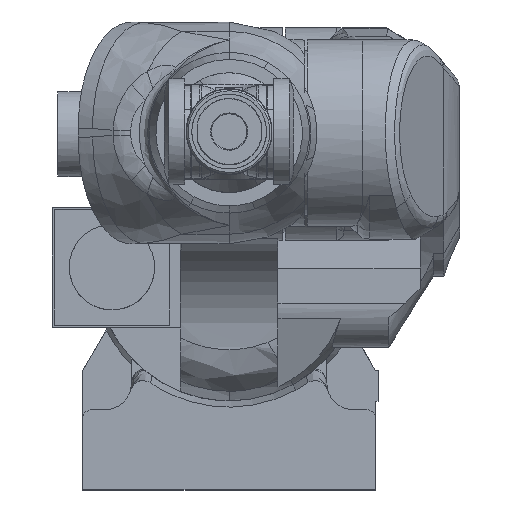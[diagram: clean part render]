
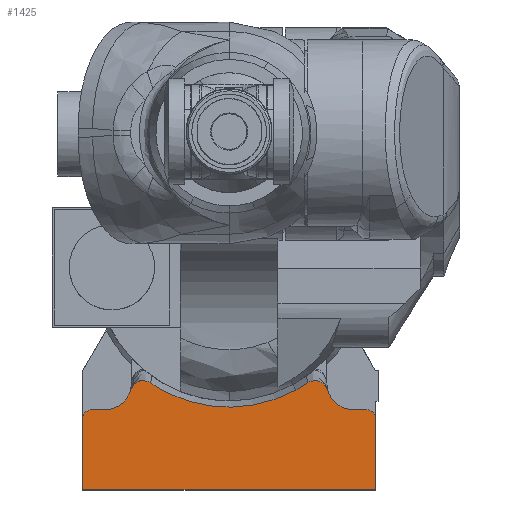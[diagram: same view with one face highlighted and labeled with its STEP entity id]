
A CAD part, top view. The second image highlights one B-rep face of the part: STEP entity #1425.
In plain terms, the highlighted planar face has unit normal (0, 0, 1).
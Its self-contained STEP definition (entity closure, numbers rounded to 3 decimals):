
#445=CARTESIAN_POINT('Vertex',(165.,-170.,187.)) ;
#448=CARTESIAN_POINT('Line Origine',(165.,-210.,187.)) ;
#452=CARTESIAN_POINT('Vertex',(165.,-250.,187.)) ;
#689=CARTESIAN_POINT('Vertex',(111.175,-138.313,187.)) ;
#692=CARTESIAN_POINT('Axis2P3D Location',(140.,-130.,187.)) ;
#696=CARTESIAN_POINT('Vertex',(140.,-160.,187.)) ;
#717=CARTESIAN_POINT('Line Origine',(147.5,-160.,187.)) ;
#721=CARTESIAN_POINT('Vertex',(155.,-160.,187.)) ;
#741=CARTESIAN_POINT('Axis2P3D Location',(155.,-170.,187.)) ;
#762=CARTESIAN_POINT('Vertex',(-165.,-250.,187.)) ;
#765=CARTESIAN_POINT('Line Origine',(-165.,-210.,187.)) ;
#769=CARTESIAN_POINT('Vertex',(-165.,-170.,187.)) ;
#805=CARTESIAN_POINT('Line Origine',(0.,-250.,187.)) ;
#1313=CARTESIAN_POINT('Axis2P3D Location',(0.,0.,187.)) ;
#1319=CARTESIAN_POINT('Control Point',(111.175,-138.313,187.)) ;
#1320=CARTESIAN_POINT('Control Point',(110.749,-136.835,187.)) ;
#1321=CARTESIAN_POINT('Control Point',(110.139,-135.41,187.)) ;
#1322=CARTESIAN_POINT('Control Point',(109.354,-134.066,187.)) ;
#1323=CARTESIAN_POINT('Control Point',(107.479,-131.617,187.)) ;
#1324=CARTESIAN_POINT('Control Point',(105.058,-129.702,187.)) ;
#1325=CARTESIAN_POINT('Control Point',(103.741,-128.907,187.)) ;
#1326=CARTESIAN_POINT('Control Point',(100.947,-127.673,187.)) ;
#1327=CARTESIAN_POINT('Control Point',(97.929,-127.173,187.)) ;
#1328=CARTESIAN_POINT('Control Point',(96.405,-127.116,187.)) ;
#1329=CARTESIAN_POINT('Control Point',(93.768,-127.359,187.)) ;
#1330=CARTESIAN_POINT('Control Point',(91.258,-128.173,187.)) ;
#1331=CARTESIAN_POINT('Control Point',(90.226,-128.621,187.)) ;
#1332=CARTESIAN_POINT('Control Point',(89.243,-129.163,187.)) ;
#1333=CARTESIAN_POINT('Control Point',(88.32,-129.79,187.)) ;
#1334=CARTESIAN_POINT('Vertex',(88.32,-129.79,187.)) ;
#1338=CARTESIAN_POINT('Control Point',(88.32,-129.79,187.)) ;
#1339=CARTESIAN_POINT('Control Point',(85.79,-131.512,187.)) ;
#1340=CARTESIAN_POINT('Control Point',(83.217,-133.172,187.)) ;
#1341=CARTESIAN_POINT('Control Point',(80.601,-134.772,187.)) ;
#1342=CARTESIAN_POINT('Control Point',(77.951,-136.305,187.)) ;
#1343=CARTESIAN_POINT('Control Point',(75.265,-137.772,187.)) ;
#1344=CARTESIAN_POINT('Vertex',(75.265,-137.772,187.)) ;
#1348=CARTESIAN_POINT('Control Point',(75.265,-137.772,187.)) ;
#1349=CARTESIAN_POINT('Control Point',(62.337,-144.834,187.)) ;
#1350=CARTESIAN_POINT('Control Point',(48.581,-150.381,187.)) ;
#1351=CARTESIAN_POINT('Control Point',(34.231,-154.281,187.)) ;
#1352=CARTESIAN_POINT('Control Point',(4.889,-158.643,187.)) ;
#1353=CARTESIAN_POINT('Control Point',(-24.666,-156.096,187.)) ;
#1354=CARTESIAN_POINT('Control Point',(-39.228,-153.087,187.)) ;
#1355=CARTESIAN_POINT('Control Point',(-58.073,-146.808,187.)) ;
#1356=CARTESIAN_POINT('Control Point',(-75.602,-137.724,187.)) ;
#1357=CARTESIAN_POINT('Control Point',(-79.947,-135.248,187.)) ;
#1358=CARTESIAN_POINT('Control Point',(-84.189,-132.601,187.)) ;
#1359=CARTESIAN_POINT('Control Point',(-88.32,-129.79,187.)) ;
#1360=CARTESIAN_POINT('Vertex',(-88.32,-129.79,187.)) ;
#1364=CARTESIAN_POINT('Control Point',(-88.32,-129.79,187.)) ;
#1365=CARTESIAN_POINT('Control Point',(-89.564,-128.945,187.)) ;
#1366=CARTESIAN_POINT('Control Point',(-90.916,-128.255,187.)) ;
#1367=CARTESIAN_POINT('Control Point',(-92.349,-127.742,187.)) ;
#1368=CARTESIAN_POINT('Control Point',(-95.323,-127.095,187.)) ;
#1369=CARTESIAN_POINT('Control Point',(-98.363,-127.216,187.)) ;
#1370=CARTESIAN_POINT('Control Point',(-99.871,-127.472,187.)) ;
#1371=CARTESIAN_POINT('Control Point',(-102.805,-128.363,187.)) ;
#1372=CARTESIAN_POINT('Control Point',(-105.422,-129.954,187.)) ;
#1373=CARTESIAN_POINT('Control Point',(-106.628,-130.916,187.)) ;
#1374=CARTESIAN_POINT('Control Point',(-108.507,-132.844,187.)) ;
#1375=CARTESIAN_POINT('Control Point',(-109.925,-135.118,187.)) ;
#1376=CARTESIAN_POINT('Control Point',(-110.44,-136.146,187.)) ;
#1377=CARTESIAN_POINT('Control Point',(-110.859,-137.215,187.)) ;
#1378=CARTESIAN_POINT('Control Point',(-111.175,-138.313,187.)) ;
#1379=CARTESIAN_POINT('Vertex',(-111.175,-138.313,187.)) ;
#1383=CARTESIAN_POINT('Control Point',(-111.175,-138.313,187.)) ;
#1384=CARTESIAN_POINT('Control Point',(-111.992,-141.149,187.)) ;
#1385=CARTESIAN_POINT('Control Point',(-113.159,-143.884,187.)) ;
#1386=CARTESIAN_POINT('Control Point',(-114.658,-146.462,187.)) ;
#1387=CARTESIAN_POINT('Control Point',(-118.259,-151.195,187.)) ;
#1388=CARTESIAN_POINT('Control Point',(-122.9,-154.915,187.)) ;
#1389=CARTESIAN_POINT('Control Point',(-125.439,-156.48,187.)) ;
#1390=CARTESIAN_POINT('Control Point',(-129.827,-158.484,187.)) ;
#1391=CARTESIAN_POINT('Control Point',(-134.503,-159.578,187.)) ;
#1392=CARTESIAN_POINT('Control Point',(-136.326,-159.859,187.)) ;
#1393=CARTESIAN_POINT('Control Point',(-138.163,-160.,187.)) ;
#1394=CARTESIAN_POINT('Control Point',(-140.,-160.,187.)) ;
#1395=CARTESIAN_POINT('Vertex',(-140.,-160.,187.)) ;
#1398=CARTESIAN_POINT('Line Origine',(-147.5,-160.,187.)) ;
#1402=CARTESIAN_POINT('Vertex',(-155.,-160.,187.)) ;
#1405=CARTESIAN_POINT('Axis2P3D Location',(-155.,-170.,187.)) ;
#449=DIRECTION('Vector Direction',(0.,-1.,0.)) ;
#693=DIRECTION('Axis2P3D Direction',(0.,0.,1.)) ;
#718=DIRECTION('Vector Direction',(1.,0.,0.)) ;
#742=DIRECTION('Axis2P3D Direction',(0.,-0.,1.)) ;
#766=DIRECTION('Vector Direction',(0.,1.,0.)) ;
#806=DIRECTION('Vector Direction',(-1.,0.,0.)) ;
#1314=DIRECTION('Axis2P3D Direction',(0.,0.,1.)) ;
#1315=DIRECTION('Axis2P3D XDirection',(1.,0.,0.)) ;
#1399=DIRECTION('Vector Direction',(-1.,0.,0.)) ;
#1406=DIRECTION('Axis2P3D Direction',(0.,0.,1.)) ;
#694=AXIS2_PLACEMENT_3D('Circle Axis2P3D',#692,#693,$) ;
#743=AXIS2_PLACEMENT_3D('Circle Axis2P3D',#741,#742,$) ;
#1316=AXIS2_PLACEMENT_3D('Plane Axis2P3D',#1313,#1314,#1315) ;
#1407=AXIS2_PLACEMENT_3D('Circle Axis2P3D',#1405,#1406,$) ;
#1411=ORIENTED_EDGE('',*,*,#723,.T.) ;
#1412=ORIENTED_EDGE('',*,*,#698,.F.) ;
#1413=ORIENTED_EDGE('',*,*,#1336,.F.) ;
#1414=ORIENTED_EDGE('',*,*,#1346,.F.) ;
#1415=ORIENTED_EDGE('',*,*,#1362,.F.) ;
#1416=ORIENTED_EDGE('',*,*,#1381,.F.) ;
#1417=ORIENTED_EDGE('',*,*,#1397,.F.) ;
#1418=ORIENTED_EDGE('',*,*,#1404,.F.) ;
#1419=ORIENTED_EDGE('',*,*,#1409,.T.) ;
#1420=ORIENTED_EDGE('',*,*,#771,.F.) ;
#1421=ORIENTED_EDGE('',*,*,#809,.F.) ;
#1422=ORIENTED_EDGE('',*,*,#454,.F.) ;
#1423=ORIENTED_EDGE('',*,*,#745,.T.) ;
#450=VECTOR('Line Direction',#449,1.) ;
#719=VECTOR('Line Direction',#718,1.) ;
#767=VECTOR('Line Direction',#766,1.) ;
#807=VECTOR('Line Direction',#806,1.) ;
#1400=VECTOR('Line Direction',#1399,1.) ;
#1425=ADVANCED_FACE('\X2\FF8AFF9FFF70FF82\X0\ \X2\FF8EFF9EFF83FF9EFF68FF70\X0\',(#1424),#1317,.T.) ;
#1318=B_SPLINE_CURVE_WITH_KNOTS('',5,(#1319,#1320,#1321,#1322,#1323,#1324,#1325,#1326,#1327,#1328,#1329,#1330,#1331,#1332,#1333),.UNSPECIFIED.,.F.,.U.,(6,3,3,3,6),(0.,10.946,21.748,32.418,40.319),.UNSPECIFIED.) ;
#1337=B_SPLINE_CURVE_WITH_KNOTS('',5,(#1338,#1339,#1340,#1341,#1342,#1343),.UNSPECIFIED.,.F.,.U.,(6,6),(0.,21.646),.UNSPECIFIED.) ;
#1347=B_SPLINE_CURVE_WITH_KNOTS('',5,(#1348,#1349,#1350,#1351,#1352,#1353,#1354,#1355,#1356,#1357,#1358,#1359),.UNSPECIFIED.,.F.,.U.,(6,3,3,6),(0.,104.375,208.751,244.15),.UNSPECIFIED.) ;
#1363=B_SPLINE_CURVE_WITH_KNOTS('',5,(#1364,#1365,#1366,#1367,#1368,#1369,#1370,#1371,#1372,#1373,#1374,#1375,#1376,#1377,#1378),.UNSPECIFIED.,.F.,.U.,(6,3,3,3,6),(0.,10.643,21.343,32.188,40.32),.UNSPECIFIED.) ;
#1382=B_SPLINE_CURVE_WITH_KNOTS('',5,(#1383,#1384,#1385,#1386,#1387,#1388,#1389,#1390,#1391,#1392,#1393,#1394),.UNSPECIFIED.,.F.,.U.,(6,3,3,6),(0.,20.915,41.831,54.849),.UNSPECIFIED.) ;
#695=CIRCLE('generated circle',#694,30.) ;
#744=CIRCLE('generated circle',#743,10.) ;
#1408=CIRCLE('generated circle',#1407,10.) ;
#454=EDGE_CURVE('',#446,#453,#451,.T.) ;
#698=EDGE_CURVE('',#690,#697,#695,.T.) ;
#723=EDGE_CURVE('',#722,#697,#720,.F.) ;
#745=EDGE_CURVE('',#446,#722,#744,.T.) ;
#771=EDGE_CURVE('',#763,#770,#768,.T.) ;
#809=EDGE_CURVE('',#453,#763,#808,.T.) ;
#1336=EDGE_CURVE('',#1335,#690,#1318,.F.) ;
#1346=EDGE_CURVE('',#1345,#1335,#1337,.F.) ;
#1362=EDGE_CURVE('',#1361,#1345,#1347,.F.) ;
#1381=EDGE_CURVE('',#1380,#1361,#1363,.F.) ;
#1397=EDGE_CURVE('',#1396,#1380,#1382,.F.) ;
#1404=EDGE_CURVE('',#1403,#1396,#1401,.F.) ;
#1409=EDGE_CURVE('',#1403,#770,#1408,.T.) ;
#1410=EDGE_LOOP('',(#1411,#1412,#1413,#1414,#1415,#1416,#1417,#1418,#1419,#1420,#1421,#1422,#1423)) ;
#1424=FACE_OUTER_BOUND('',#1410,.T.) ;
#451=LINE('Line',#448,#450) ;
#720=LINE('Line',#717,#719) ;
#768=LINE('Line',#765,#767) ;
#808=LINE('Line',#805,#807) ;
#1401=LINE('Line',#1398,#1400) ;
#1317=PLANE('',#1316) ;
#446=VERTEX_POINT('',#445) ;
#453=VERTEX_POINT('',#452) ;
#690=VERTEX_POINT('',#689) ;
#697=VERTEX_POINT('',#696) ;
#722=VERTEX_POINT('',#721) ;
#763=VERTEX_POINT('',#762) ;
#770=VERTEX_POINT('',#769) ;
#1335=VERTEX_POINT('',#1334) ;
#1345=VERTEX_POINT('',#1344) ;
#1361=VERTEX_POINT('',#1360) ;
#1380=VERTEX_POINT('',#1379) ;
#1396=VERTEX_POINT('',#1395) ;
#1403=VERTEX_POINT('',#1402) ;
